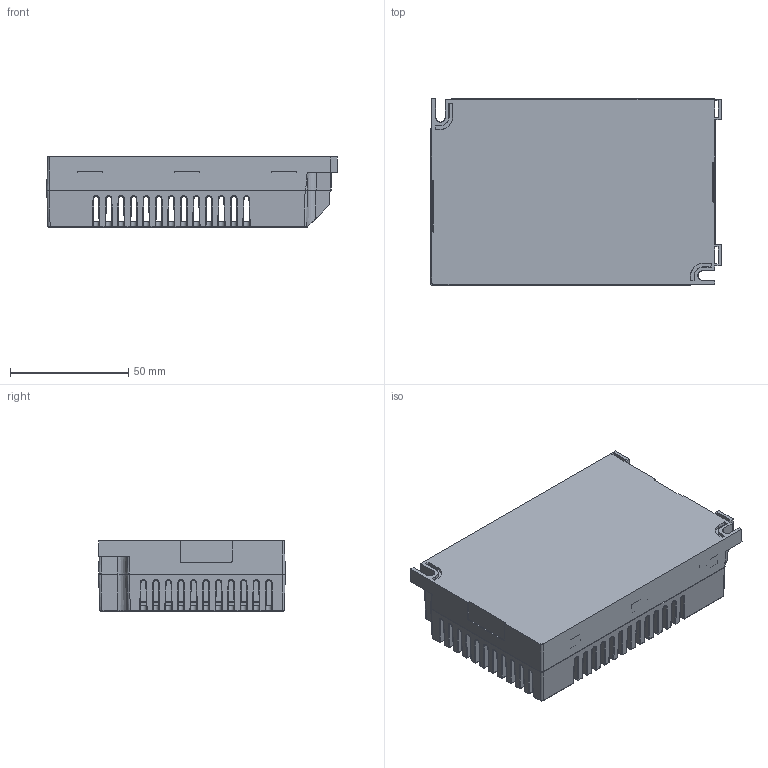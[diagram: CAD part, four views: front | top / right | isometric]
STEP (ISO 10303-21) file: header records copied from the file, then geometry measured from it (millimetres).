
FILE_DESCRIPTION (( 'STEP AP203' ), '1' );
FILE_NAME ('LC1x50 FREEDOM.STEP', '2020-03-13T07:46:56', ( '' ), ( '' ), 'SwSTEP 2.0', 'SolidWorks 2014', '' );
FILE_SCHEMA (( 'CONFIG_CONTROL_DESIGN' ));
Length unit declared in the file: millimetre
Products named in the file (8): 50w uusi pohja; LC1x50 FREEDOM; pcb LC1x35; LC35_DA_iC; 50w uusi kansi_tulostus; 4n; 353620450; 2n
Assembly tree (8 placements, depth 3):
  LC1x50 FREEDOM
    LC35_DA_iC
      50w uusi kansi_tulostus
      50w uusi pohja
    pcb LC1x35
    2n  x2
    4n
    353620450
Bounding box: 122.95 x 79 x 29.65 mm (x, y, z)
Volume: 66774.1 mm3; surface area: 84783.6 mm2
Topology: 7 solids, 7 shells, 1501 faces, 4076 edges, 2548 vertices
Faces by surface type: plane 808, cylinder 422, bspline 79, sphere 76, cone 69, torus 47
Entity records: 46320 total; most frequent: CARTESIAN_POINT 11212, ORIENTED_EDGE 7578, DIRECTION 6752, EDGE_CURVE 3789, LINE 2624, VECTOR 2624, VERTEX_POINT 2360, AXIS2_PLACEMENT_3D 2064
